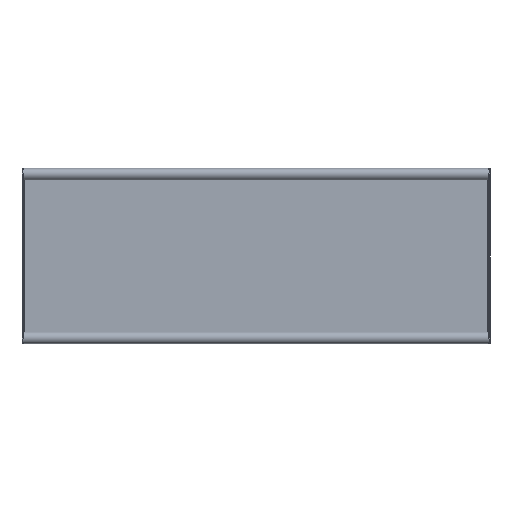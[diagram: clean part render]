
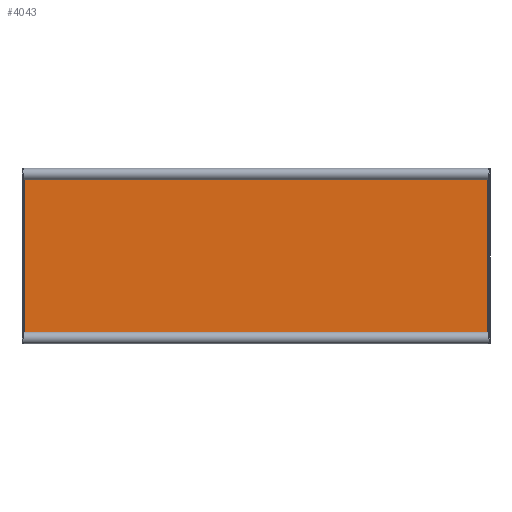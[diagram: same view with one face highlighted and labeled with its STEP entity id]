
A CAD part, front view. The second image highlights one B-rep face of the part: STEP entity #4043.
In plain terms, the highlighted planar face has unit normal (0, -1, 0).
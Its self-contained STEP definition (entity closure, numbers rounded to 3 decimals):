
#325 = VERTEX_POINT ( 'NONE', #4493 ) ;
#429 = CARTESIAN_POINT ( 'NONE',  ( -395., -2., -146. ) ) ;
#546 = EDGE_CURVE ( 'NONE', #7893, #9933, #5235, .T. ) ;
#614 = DIRECTION ( 'NONE',  ( 0., 0., 1. ) ) ;
#630 = CARTESIAN_POINT ( 'NONE',  ( -399., -2., -149. ) ) ;
#659 = DIRECTION ( 'NONE',  ( 0., -1., 0. ) ) ;
#779 = DIRECTION ( 'NONE',  ( 1., 0., 0. ) ) ;
#954 = VERTEX_POINT ( 'NONE', #2946 ) ;
#1420 = CARTESIAN_POINT ( 'NONE',  ( 396., -2., -149. ) ) ;
#1606 = EDGE_CURVE ( 'NONE', #5981, #7893, #4275, .T. ) ;
#1842 = EDGE_CURVE ( 'NONE', #7718, #5981, #9795, .T. ) ;
#1950 = CARTESIAN_POINT ( 'NONE',  ( -399., -2., -149. ) ) ;
#1974 = DIRECTION ( 'NONE',  ( 0., -1., 0. ) ) ;
#2032 = EDGE_CURVE ( 'NONE', #5304, #9521, #2654, .T. ) ;
#2145 = ORIENTED_EDGE ( 'NONE', *, *, #2803, .T. ) ;
#2174 = ORIENTED_EDGE ( 'NONE', *, *, #6667, .T. ) ;
#2325 = LINE ( 'NONE', #2972, #6413 ) ;
#2654 = CIRCLE ( 'NONE', #5258, 5. ) ;
#2673 = ORIENTED_EDGE ( 'NONE', *, *, #1606, .F. ) ;
#2704 = VECTOR ( 'NONE', #7587, 1000. ) ;
#2803 = EDGE_CURVE ( 'NONE', #7718, #9521, #2325, .T. ) ;
#2897 = ORIENTED_EDGE ( 'NONE', *, *, #3386, .F. ) ;
#2946 = CARTESIAN_POINT ( 'NONE',  ( 396., -2., 145. ) ) ;
#2972 = CARTESIAN_POINT ( 'NONE',  ( -399., -2., -146. ) ) ;
#3119 = CARTESIAN_POINT ( 'NONE',  ( -395., -2., 146. ) ) ;
#3159 = CARTESIAN_POINT ( 'NONE',  ( 395., -2., -146. ) ) ;
#3185 = AXIS2_PLACEMENT_3D ( 'NONE', #1950, #9040, #4595 ) ;
#3386 = EDGE_CURVE ( 'NONE', #325, #954, #7473, .T. ) ;
#3625 = DIRECTION ( 'NONE',  ( 0., -1., 0. ) ) ;
#3729 = LINE ( 'NONE', #1420, #2704 ) ;
#3742 = DIRECTION ( 'NONE',  ( 0., 0., 1. ) ) ;
#3830 = CARTESIAN_POINT ( 'NONE',  ( -399., -2., 149. ) ) ;
#4043 = ADVANCED_FACE ( 'NONE', ( #8938 ), #9225, .F. ) ;
#4166 = ORIENTED_EDGE ( 'NONE', *, *, #546, .F. ) ;
#4275 = LINE ( 'NONE', #6612, #6874 ) ;
#4493 = CARTESIAN_POINT ( 'NONE',  ( 395., -2., 146. ) ) ;
#4543 = DIRECTION ( 'NONE',  ( 1., 0., 0. ) ) ;
#4595 = DIRECTION ( 'NONE',  ( 0., 0., 1. ) ) ;
#4659 = CARTESIAN_POINT ( 'NONE',  ( -399., -2., 146. ) ) ;
#5078 = DIRECTION ( 'NONE',  ( 0., 0., 1. ) ) ;
#5087 = DIRECTION ( 'NONE',  ( 0., 0., 1. ) ) ;
#5235 = CIRCLE ( 'NONE', #8824, 5. ) ;
#5258 = AXIS2_PLACEMENT_3D ( 'NONE', #6619, #1974, #5087 ) ;
#5304 = VERTEX_POINT ( 'NONE', #6063 ) ;
#5326 = ORIENTED_EDGE ( 'NONE', *, *, #1842, .F. ) ;
#5416 = AXIS2_PLACEMENT_3D ( 'NONE', #630, #9139, #3742 ) ;
#5522 = CARTESIAN_POINT ( 'NONE',  ( -396., -2., -145. ) ) ;
#5757 = ORIENTED_EDGE ( 'NONE', *, *, #6497, .F. ) ;
#5981 = VERTEX_POINT ( 'NONE', #5522 ) ;
#6063 = CARTESIAN_POINT ( 'NONE',  ( 396., -2., -145. ) ) ;
#6413 = VECTOR ( 'NONE', #4543, 1000. ) ;
#6497 = EDGE_CURVE ( 'NONE', #9933, #325, #8515, .T. ) ;
#6612 = CARTESIAN_POINT ( 'NONE',  ( -396., -2., -149. ) ) ;
#6619 = CARTESIAN_POINT ( 'NONE',  ( 399., -2., -149. ) ) ;
#6667 = EDGE_CURVE ( 'NONE', #5304, #954, #3729, .T. ) ;
#6682 = CARTESIAN_POINT ( 'NONE',  ( 399., -2., 149. ) ) ;
#6729 = DIRECTION ( 'NONE',  ( 0., 0., 1. ) ) ;
#6874 = VECTOR ( 'NONE', #5078, 1000. ) ;
#7101 = CARTESIAN_POINT ( 'NONE',  ( -396., -2., 145. ) ) ;
#7473 = CIRCLE ( 'NONE', #10084, 5. ) ;
#7587 = DIRECTION ( 'NONE',  ( 0., 0., 1. ) ) ;
#7718 = VERTEX_POINT ( 'NONE', #429 ) ;
#7732 = VECTOR ( 'NONE', #779, 1000. ) ;
#7893 = VERTEX_POINT ( 'NONE', #7101 ) ;
#8044 = EDGE_LOOP ( 'NONE', ( #9584, #2174, #2897, #5757, #4166, #2673, #5326, #2145 ) ) ;
#8515 = LINE ( 'NONE', #4659, #7732 ) ;
#8824 = AXIS2_PLACEMENT_3D ( 'NONE', #3830, #659, #614 ) ;
#8938 = FACE_OUTER_BOUND ( 'NONE', #8044, .T. ) ;
#9040 = DIRECTION ( 'NONE',  ( 0., 1., 0. ) ) ;
#9139 = DIRECTION ( 'NONE',  ( 0., -1., 0. ) ) ;
#9225 = PLANE ( 'NONE',  #3185 ) ;
#9521 = VERTEX_POINT ( 'NONE', #3159 ) ;
#9584 = ORIENTED_EDGE ( 'NONE', *, *, #2032, .F. ) ;
#9795 = CIRCLE ( 'NONE', #5416, 5. ) ;
#9933 = VERTEX_POINT ( 'NONE', #3119 ) ;
#10084 = AXIS2_PLACEMENT_3D ( 'NONE', #6682, #3625, #6729 ) ;
